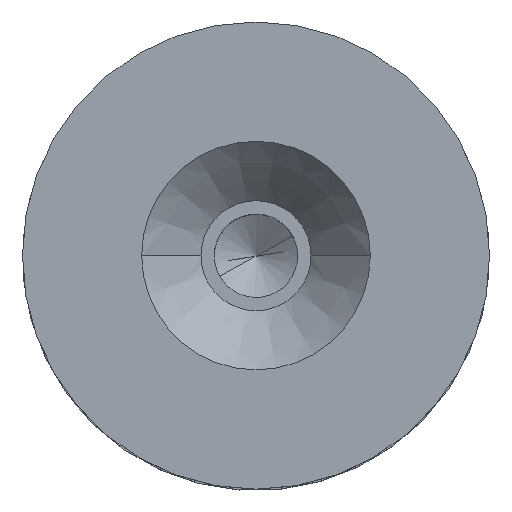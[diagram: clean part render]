
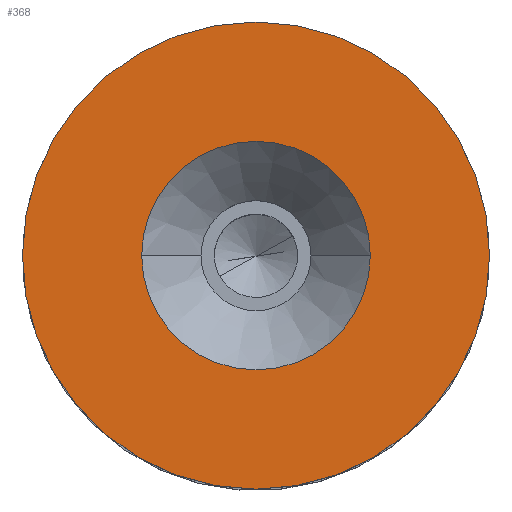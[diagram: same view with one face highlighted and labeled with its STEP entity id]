
A CAD part, top view. The second image highlights one B-rep face of the part: STEP entity #368.
In plain terms, the highlighted planar face has unit normal (0, 0, 1).
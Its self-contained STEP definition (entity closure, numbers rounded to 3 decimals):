
#5 = AXIS2_PLACEMENT_3D ( 'NONE', #783, #761, #587 ) ;
#17 = CARTESIAN_POINT ( 'NONE',  ( 6.85, 0., 5. ) ) ;
#19 = ORIENTED_EDGE ( 'NONE', *, *, #596, .T. ) ;
#78 = CARTESIAN_POINT ( 'NONE',  ( 0., 0., 5. ) ) ;
#134 = EDGE_LOOP ( 'NONE', ( #511, #726 ) ) ;
#155 = DIRECTION ( 'NONE',  ( 0., 0., 1. ) ) ;
#158 = EDGE_CURVE ( 'NONE', #614, #205, #271, .T. ) ;
#183 = CIRCLE ( 'NONE', #319, 14. ) ;
#190 = CARTESIAN_POINT ( 'NONE',  ( 14., 0., 5. ) ) ;
#195 = FACE_BOUND ( 'NONE', #639, .T. ) ;
#205 = VERTEX_POINT ( 'NONE', #646 ) ;
#271 = CIRCLE ( 'NONE', #5, 6.85 ) ;
#273 = CIRCLE ( 'NONE', #694, 14. ) ;
#311 = DIRECTION ( 'NONE',  ( 0., 0., 1. ) ) ;
#313 = DIRECTION ( 'NONE',  ( 0., 0., 1. ) ) ;
#319 = AXIS2_PLACEMENT_3D ( 'NONE', #777, #313, #746 ) ;
#323 = DIRECTION ( 'NONE',  ( 1., 0., 0. ) ) ;
#332 = ORIENTED_EDGE ( 'NONE', *, *, #158, .T. ) ;
#368 = ADVANCED_FACE ( 'NONE', ( #195, #504 ), #446, .T. ) ;
#372 = CARTESIAN_POINT ( 'NONE',  ( 0., 0., 5. ) ) ;
#394 = CARTESIAN_POINT ( 'NONE',  ( 0., 0., 5. ) ) ;
#446 = PLANE ( 'NONE',  #627 ) ;
#504 = FACE_OUTER_BOUND ( 'NONE', #134, .T. ) ;
#508 = DIRECTION ( 'NONE',  ( 1., 0., 0. ) ) ;
#511 = ORIENTED_EDGE ( 'NONE', *, *, #512, .T. ) ;
#512 = EDGE_CURVE ( 'NONE', #819, #565, #183, .T. ) ;
#531 = DIRECTION ( 'NONE',  ( 1., 0., 0. ) ) ;
#565 = VERTEX_POINT ( 'NONE', #190 ) ;
#587 = DIRECTION ( 'NONE',  ( 1., 0., 0. ) ) ;
#596 = EDGE_CURVE ( 'NONE', #205, #614, #822, .T. ) ;
#614 = VERTEX_POINT ( 'NONE', #17 ) ;
#627 = AXIS2_PLACEMENT_3D ( 'NONE', #372, #311, #508 ) ;
#636 = EDGE_CURVE ( 'NONE', #565, #819, #273, .T. ) ;
#639 = EDGE_LOOP ( 'NONE', ( #332, #19 ) ) ;
#646 = CARTESIAN_POINT ( 'NONE',  ( -6.85, 0., 5. ) ) ;
#660 = DIRECTION ( 'NONE',  ( 0., 0., -1. ) ) ;
#694 = AXIS2_PLACEMENT_3D ( 'NONE', #78, #155, #531 ) ;
#726 = ORIENTED_EDGE ( 'NONE', *, *, #636, .T. ) ;
#746 = DIRECTION ( 'NONE',  ( 1., 0., 0. ) ) ;
#761 = DIRECTION ( 'NONE',  ( 0., 0., -1. ) ) ;
#777 = CARTESIAN_POINT ( 'NONE',  ( 0., 0., 5. ) ) ;
#783 = CARTESIAN_POINT ( 'NONE',  ( 0., 0., 5. ) ) ;
#819 = VERTEX_POINT ( 'NONE', #855 ) ;
#822 = CIRCLE ( 'NONE', #825, 6.85 ) ;
#825 = AXIS2_PLACEMENT_3D ( 'NONE', #394, #660, #323 ) ;
#855 = CARTESIAN_POINT ( 'NONE',  ( -14., 0., 5. ) ) ;
